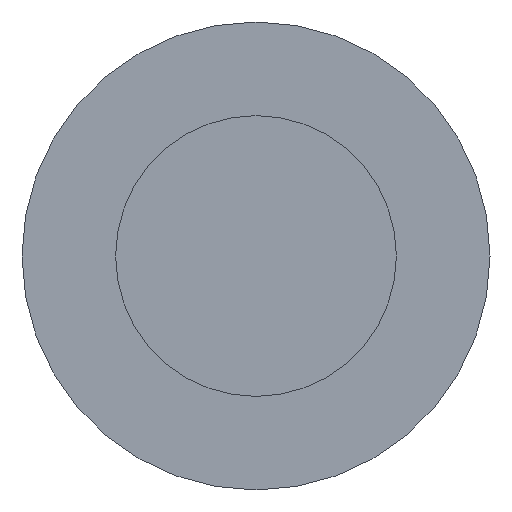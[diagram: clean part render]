
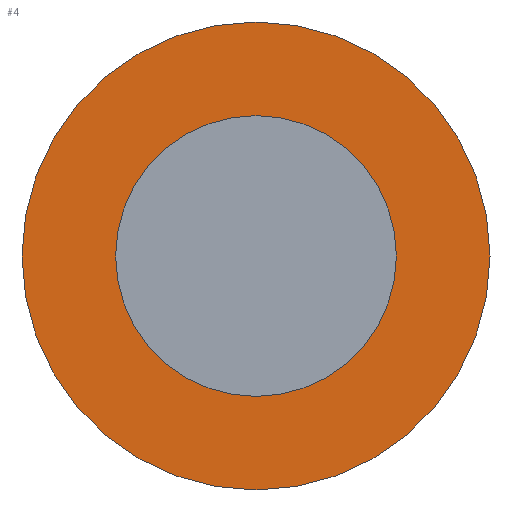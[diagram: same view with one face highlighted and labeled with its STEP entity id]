
A CAD part, front view. The second image highlights one B-rep face of the part: STEP entity #4.
In plain terms, the highlighted planar face has unit normal (0, -1, 0).
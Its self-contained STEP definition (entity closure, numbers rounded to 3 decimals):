
#4 = ADVANCED_FACE ( 'NONE', ( #87, #85 ), #246, .F. ) ;
#25 = CIRCLE ( 'NONE', #145, 5. ) ;
#51 = EDGE_LOOP ( 'NONE', ( #73, #293 ) ) ;
#59 = EDGE_LOOP ( 'NONE', ( #292, #291 ) ) ;
#73 = ORIENTED_EDGE ( 'NONE', *, *, #111, .F. ) ;
#75 = CIRCLE ( 'NONE', #108, 5. ) ;
#79 = CIRCLE ( 'NONE', #146, 3. ) ;
#80 = CIRCLE ( 'NONE', #112, 3. ) ;
#85 = FACE_OUTER_BOUND ( 'NONE', #59, .T. ) ;
#87 = FACE_BOUND ( 'NONE', #51, .T. ) ;
#108 = AXIS2_PLACEMENT_3D ( 'NONE', #266, #265, #264 ) ;
#111 = EDGE_CURVE ( 'NONE', #200, #196, #80, .T. ) ;
#112 = AXIS2_PLACEMENT_3D ( 'NONE', #271, #269, #268 ) ;
#114 = EDGE_CURVE ( 'NONE', #157, #158, #75, .T. ) ;
#115 = EDGE_CURVE ( 'NONE', #196, #200, #79, .T. ) ;
#120 = EDGE_CURVE ( 'NONE', #158, #157, #25, .T. ) ;
#133 = AXIS2_PLACEMENT_3D ( 'NONE', #247, #243, #241 ) ;
#145 = AXIS2_PLACEMENT_3D ( 'NONE', #259, #256, #255 ) ;
#146 = AXIS2_PLACEMENT_3D ( 'NONE', #263, #261, #260 ) ;
#157 = VERTEX_POINT ( 'NONE', #220 ) ;
#158 = VERTEX_POINT ( 'NONE', #208 ) ;
#196 = VERTEX_POINT ( 'NONE', #205 ) ;
#200 = VERTEX_POINT ( 'NONE', #204 ) ;
#204 = CARTESIAN_POINT ( 'NONE',  ( 3., 0.6, 0. ) ) ;
#205 = CARTESIAN_POINT ( 'NONE',  ( -3., 0.6, 0. ) ) ;
#208 = CARTESIAN_POINT ( 'NONE',  ( 5., 0.6, 0. ) ) ;
#220 = CARTESIAN_POINT ( 'NONE',  ( -5., 0.6, 0. ) ) ;
#241 = DIRECTION ( 'NONE',  ( -1., 0., 0. ) ) ;
#243 = DIRECTION ( 'NONE',  ( 0., 1., 0. ) ) ;
#246 = PLANE ( 'NONE',  #133 ) ;
#247 = CARTESIAN_POINT ( 'NONE',  ( -5., 0.6, 0. ) ) ;
#255 = DIRECTION ( 'NONE',  ( 1., 0., 0. ) ) ;
#256 = DIRECTION ( 'NONE',  ( 0., -1., 0. ) ) ;
#259 = CARTESIAN_POINT ( 'NONE',  ( 0., 0.6, 0. ) ) ;
#260 = DIRECTION ( 'NONE',  ( 1., 0., 0. ) ) ;
#261 = DIRECTION ( 'NONE',  ( 0., -1., 0. ) ) ;
#263 = CARTESIAN_POINT ( 'NONE',  ( 0., 0.6, 0. ) ) ;
#264 = DIRECTION ( 'NONE',  ( 1., 0., 0. ) ) ;
#265 = DIRECTION ( 'NONE',  ( 0., -1., 0. ) ) ;
#266 = CARTESIAN_POINT ( 'NONE',  ( 0., 0.6, 0. ) ) ;
#268 = DIRECTION ( 'NONE',  ( 1., 0., 0. ) ) ;
#269 = DIRECTION ( 'NONE',  ( 0., -1., 0. ) ) ;
#271 = CARTESIAN_POINT ( 'NONE',  ( 0., 0.6, 0. ) ) ;
#291 = ORIENTED_EDGE ( 'NONE', *, *, #114, .T. ) ;
#292 = ORIENTED_EDGE ( 'NONE', *, *, #120, .T. ) ;
#293 = ORIENTED_EDGE ( 'NONE', *, *, #115, .F. ) ;
